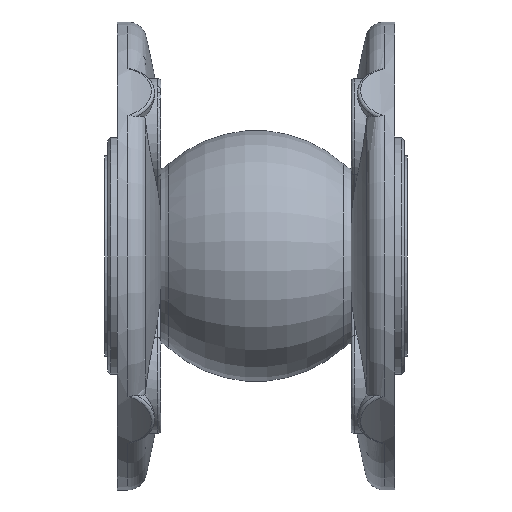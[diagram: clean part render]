
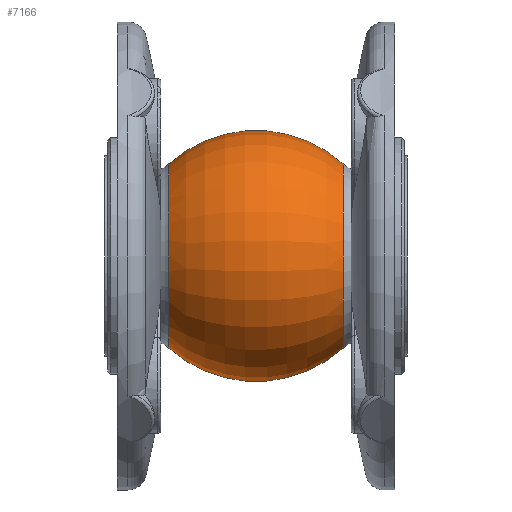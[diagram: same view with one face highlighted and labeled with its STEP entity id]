
A CAD part, left-side view. The second image highlights one B-rep face of the part: STEP entity #7166.
In plain terms, the highlighted toroidal (fillet/blend) face has major radius 1.566 mm and minor radius 41.788 mm.
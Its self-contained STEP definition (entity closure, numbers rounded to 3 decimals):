
#214 = VERTEX_POINT ( 'NONE', #5890 ) ;
#261 = CARTESIAN_POINT ( 'NONE',  ( 0., 19.61, 0. ) ) ;
#821 = EDGE_LOOP ( 'NONE', ( #5608, #3344, #4174, #3881 ) ) ;
#928 = DIRECTION ( 'NONE',  ( 0., -1., 0. ) ) ;
#971 = DIRECTION ( 'NONE',  ( 0., -1., 0. ) ) ;
#1022 = DIRECTION ( 'NONE',  ( -1., 0., 0. ) ) ;
#1466 = CIRCLE ( 'NONE', #2467, 29.553 ) ;
#1508 = DIRECTION ( 'NONE',  ( 0., 0., -1. ) ) ;
#1575 = AXIS2_PLACEMENT_3D ( 'NONE', #4463, #1022, #2171 ) ;
#2171 = DIRECTION ( 'NONE',  ( 0., 0., 1. ) ) ;
#2278 = DIRECTION ( 'NONE',  ( 0., -1., 0. ) ) ;
#2419 = DIRECTION ( 'NONE',  ( 0., 0., -1. ) ) ;
#2467 = AXIS2_PLACEMENT_3D ( 'NONE', #3282, #928, #2419 ) ;
#3003 = DIRECTION ( 'NONE',  ( 0., 0., -1. ) ) ;
#3155 = EDGE_CURVE ( 'NONE', #4023, #5444, #3960, .T. ) ;
#3227 = CIRCLE ( 'NONE', #5229, 41.788 ) ;
#3236 = CIRCLE ( 'NONE', #4244, 29.553 ) ;
#3282 = CARTESIAN_POINT ( 'NONE',  ( 0., 75.39, 0. ) ) ;
#3344 = ORIENTED_EDGE ( 'NONE', *, *, #4181, .T. ) ;
#3483 = FACE_OUTER_BOUND ( 'NONE', #821, .T. ) ;
#3603 = CARTESIAN_POINT ( 'NONE',  ( 0., 47.5, -1.566 ) ) ;
#3881 = ORIENTED_EDGE ( 'NONE', *, *, #6676, .F. ) ;
#3913 = CARTESIAN_POINT ( 'NONE',  ( 0., 19.61, -29.553 ) ) ;
#3960 = CIRCLE ( 'NONE', #1575, 41.788 ) ;
#4023 = VERTEX_POINT ( 'NONE', #5087 ) ;
#4107 = CARTESIAN_POINT ( 'NONE',  ( 0., 47.5, 0. ) ) ;
#4174 = ORIENTED_EDGE ( 'NONE', *, *, #3155, .T. ) ;
#4181 = EDGE_CURVE ( 'NONE', #214, #4023, #1466, .T. ) ;
#4185 = AXIS2_PLACEMENT_3D ( 'NONE', #4107, #2278, #4790 ) ;
#4244 = AXIS2_PLACEMENT_3D ( 'NONE', #261, #971, #1508 ) ;
#4445 = EDGE_CURVE ( 'NONE', #214, #5148, #3227, .T. ) ;
#4463 = CARTESIAN_POINT ( 'NONE',  ( 0., 47.5, 1.566 ) ) ;
#4661 = CARTESIAN_POINT ( 'NONE',  ( 0., 19.61, 29.553 ) ) ;
#4675 = TOROIDAL_SURFACE ( 'NONE', #4185, -1.566, 41.788 ) ;
#4790 = DIRECTION ( 'NONE',  ( 0., 0., -1. ) ) ;
#5087 = CARTESIAN_POINT ( 'NONE',  ( 0., 75.39, -29.553 ) ) ;
#5148 = VERTEX_POINT ( 'NONE', #4661 ) ;
#5229 = AXIS2_PLACEMENT_3D ( 'NONE', #3603, #5964, #3003 ) ;
#5444 = VERTEX_POINT ( 'NONE', #3913 ) ;
#5608 = ORIENTED_EDGE ( 'NONE', *, *, #4445, .F. ) ;
#5890 = CARTESIAN_POINT ( 'NONE',  ( 0., 75.39, 29.553 ) ) ;
#5964 = DIRECTION ( 'NONE',  ( 1., 0., 0. ) ) ;
#6676 = EDGE_CURVE ( 'NONE', #5148, #5444, #3236, .T. ) ;
#7166 = ADVANCED_FACE ( 'NONE', ( #3483 ), #4675, .T. ) ;
